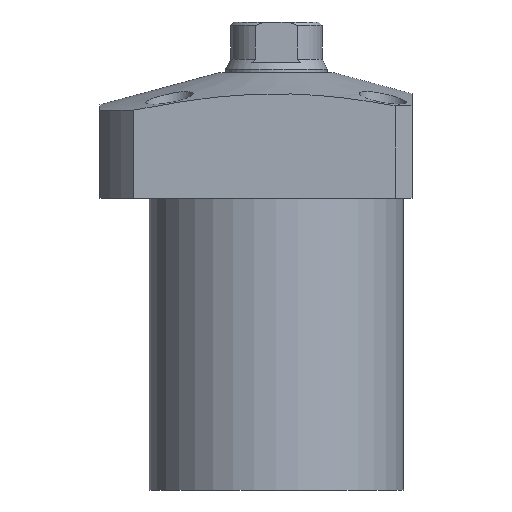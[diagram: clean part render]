
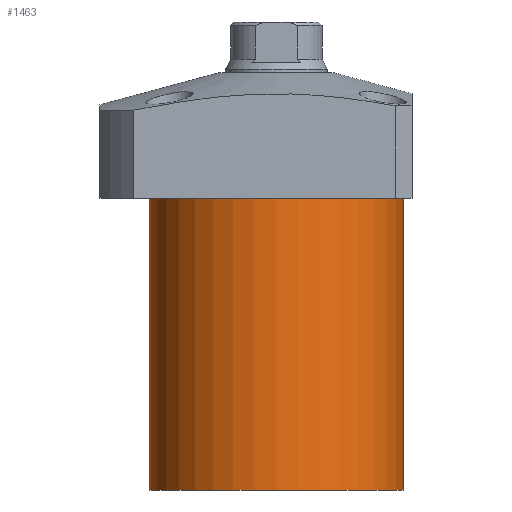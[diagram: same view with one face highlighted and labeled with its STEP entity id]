
A CAD part, front view. The second image highlights one B-rep face of the part: STEP entity #1463.
In plain terms, the highlighted cylindrical face has radius 37.5 mm (diameter 75 mm), a partial arc.
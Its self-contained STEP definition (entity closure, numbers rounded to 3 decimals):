
#70 = VERTEX_POINT ( 'NONE', #318 ) ;
#87 = FACE_OUTER_BOUND ( 'NONE', #1219, .T. ) ;
#97 = ORIENTED_EDGE ( 'NONE', *, *, #300, .F. ) ;
#133 = EDGE_CURVE ( 'NONE', #70, #397, #579, .T. ) ;
#300 = EDGE_CURVE ( 'NONE', #70, #2280, #1604, .T. ) ;
#318 = CARTESIAN_POINT ( 'NONE',  ( 37.5, 0., -104.5 ) ) ;
#397 = VERTEX_POINT ( 'NONE', #880 ) ;
#431 = DIRECTION ( 'NONE',  ( 0., 0., 1. ) ) ;
#453 = DIRECTION ( 'NONE',  ( -1., 0., 0. ) ) ;
#510 = VERTEX_POINT ( 'NONE', #1521 ) ;
#570 = ORIENTED_EDGE ( 'NONE', *, *, #1141, .T. ) ;
#579 = LINE ( 'NONE', #1870, #1695 ) ;
#880 = CARTESIAN_POINT ( 'NONE',  ( 37.5, 0., -18.5 ) ) ;
#896 = DIRECTION ( 'NONE',  ( 0., 0., -1. ) ) ;
#1017 = CARTESIAN_POINT ( 'NONE',  ( 0., 0., -104.5 ) ) ;
#1141 = EDGE_CURVE ( 'NONE', #397, #510, #2341, .T. ) ;
#1219 = EDGE_LOOP ( 'NONE', ( #1475, #97, #2199, #570 ) ) ;
#1238 = DIRECTION ( 'NONE',  ( 0., 0., -1. ) ) ;
#1365 = CARTESIAN_POINT ( 'NONE',  ( -37.5, 0., -104.5 ) ) ;
#1385 = EDGE_CURVE ( 'NONE', #2280, #510, #1917, .T. ) ;
#1437 = CARTESIAN_POINT ( 'NONE',  ( 0., 0., -104.5 ) ) ;
#1463 = ADVANCED_FACE ( 'NONE', ( #87 ), #2500, .T. ) ;
#1475 = ORIENTED_EDGE ( 'NONE', *, *, #1385, .F. ) ;
#1504 = DIRECTION ( 'NONE',  ( 0., 0., 1. ) ) ;
#1521 = CARTESIAN_POINT ( 'NONE',  ( -37.5, 0., -18.5 ) ) ;
#1553 = AXIS2_PLACEMENT_3D ( 'NONE', #1017, #1238, #453 ) ;
#1604 = CIRCLE ( 'NONE', #1553, 37.5 ) ;
#1695 = VECTOR ( 'NONE', #1504, 1000. ) ;
#1702 = AXIS2_PLACEMENT_3D ( 'NONE', #2067, #896, #2275 ) ;
#1808 = DIRECTION ( 'NONE',  ( 1., 0., 0. ) ) ;
#1870 = CARTESIAN_POINT ( 'NONE',  ( 37.5, 0., -104.5 ) ) ;
#1917 = LINE ( 'NONE', #1365, #2279 ) ;
#1955 = CARTESIAN_POINT ( 'NONE',  ( -37.5, 0., -104.5 ) ) ;
#2037 = AXIS2_PLACEMENT_3D ( 'NONE', #1437, #431, #1808 ) ;
#2067 = CARTESIAN_POINT ( 'NONE',  ( 0., 0., -18.5 ) ) ;
#2173 = DIRECTION ( 'NONE',  ( 0., 0., 1. ) ) ;
#2199 = ORIENTED_EDGE ( 'NONE', *, *, #133, .T. ) ;
#2275 = DIRECTION ( 'NONE',  ( 1., 0., 0. ) ) ;
#2279 = VECTOR ( 'NONE', #2173, 1000. ) ;
#2280 = VERTEX_POINT ( 'NONE', #1955 ) ;
#2341 = CIRCLE ( 'NONE', #1702, 37.5 ) ;
#2500 = CYLINDRICAL_SURFACE ( 'NONE', #2037, 37.5 ) ;
